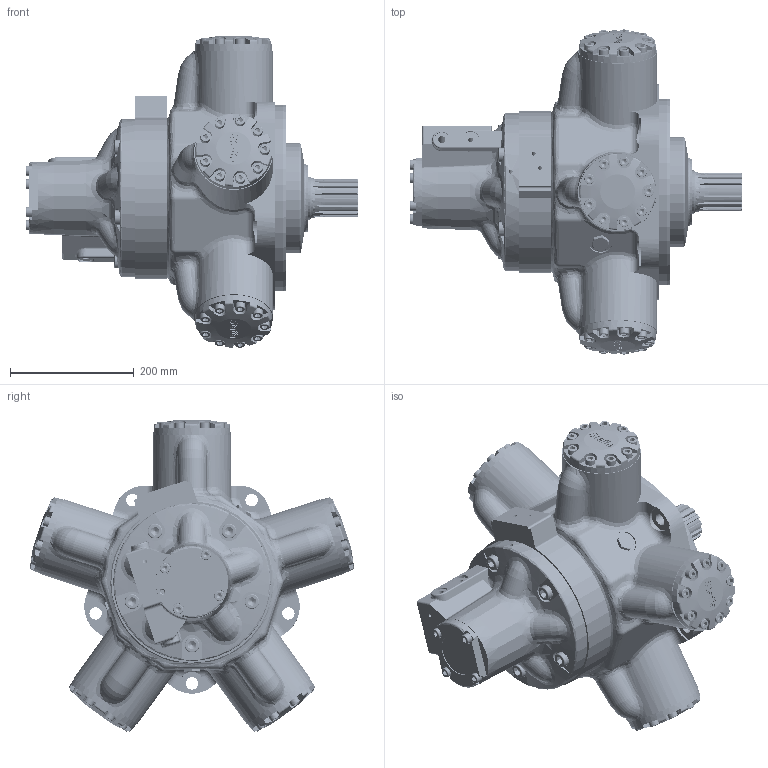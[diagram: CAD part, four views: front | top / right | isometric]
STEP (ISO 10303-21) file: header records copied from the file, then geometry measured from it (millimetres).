
FILE_DESCRIPTION((''),'2;1');
FILE_NAME('I:\3D Step files\APPROVED 3D MODELS FOR WEB\Staffa\HMC080 S FM3 X 70.stp','2010-04-29T09:52:10',('mnorman'),(''),'Autodesk Inventor 2010','Autodesk Inventor 2010','');
FILE_SCHEMA(('AUTOMOTIVE_DESIGN { 1 0 10303 214 1 1 1 1 }'));
Length unit declared in the file: millimetre
Products named in the file (1): Part1
Bounding box: 535.65 x 524.48 x 502.41 mm (x, y, z)
Volume: 17621823.2 mm3; surface area: 1664051.9 mm2
Topology: 130 solids, 130 shells, 3467 faces, 8553 edges, 5522 vertices
Faces by surface type: plane 1348, bspline 1158, cylinder 528, cone 226, torus 187, sphere 20
Full cylindrical faces by diameter (mm): 4 x1, 6.2 x1, 8.016 x1, 10 x59, 10.5 x45, 11.8 x2, 12.7 x1, 15.875 x5, 16 x59, 16.51 x1, 16.7 x5, 19.05 x1, 22 x10, 22.2 x5, 22.225 x10, 23.825 x5, 24.892 x2, 27.495 x1, 27.68 x5, 28.575 x5, 28.677 x5, 31.75 x2, 32 x2, 38.176 x5, 38.18 x5, 65.1 x1, 67 x1, 68.58 x1, 69.825 x1, 73.228 x5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
Entity records: 117459 total; most frequent: CARTESIAN_POINT 44710, ORIENTED_EDGE 14162, DIRECTION 12189, EDGE_CURVE 7081, VERTEX_POINT 5007, EDGE_LOOP 4774, AXIS2_PLACEMENT_3D 4653, FACE_OUTER_BOUND 3464
